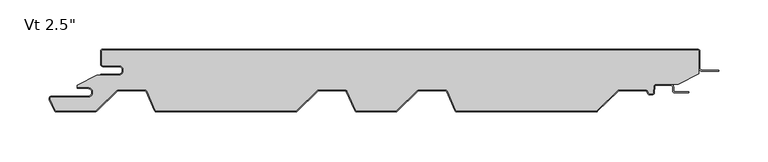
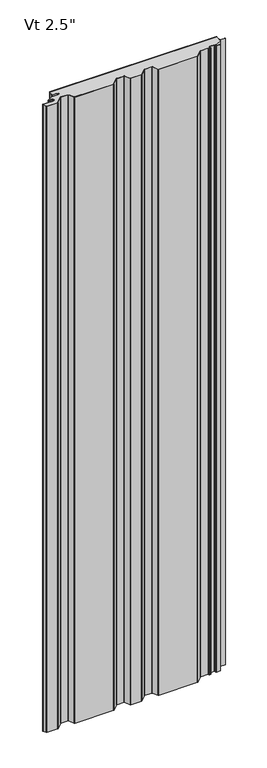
"""IFC4 building model written with IfcOpenShell, lengths in millimetres: plate geometry."""

import ifcopenshell
import ifcopenshell.guid

model = None  # the IFC model being written
_history = None  # IfcOwnerHistory: only IFC2X3 demands one
_inside = {}  # id of a spatial element -> (the spatial element, [elements in it])
_under = {}  # id of a project, library or spatial element -> (it, [spatial elements below it])
_declared = {}  # id of a project -> (the project, [libraries it declares])
_typed = {}  # id of a type object -> (the type object, [elements of that type])
_made_of = {}  # id of a material, layer set ... -> (it, [elements and type objects made of it])


def new_model(schema):
    """Start an empty IFC model of exactly this schema.

    Asked for "IFC4X3", IfcOpenShell would pick the latest addendum, in which some entities
    have other attributes; the version numbers below select the first issue.
    IFC2X3 requires an IfcOwnerHistory on every rooted entity: one is made here for all.
    """
    global model, _history
    if schema == "IFC4X3":
        model = ifcopenshell.file(schema_version=(4, 3, 0, 0))
    else:
        model = ifcopenshell.file(schema=schema)
    _inside.clear()
    _under.clear()
    _declared.clear()
    _typed.clear()
    _made_of.clear()
    _history = None
    if model.schema == "IFC2X3":
        org = make("IfcOrganization", Name="unknown")
        user = make(
            "IfcPersonAndOrganization",
            ThePerson=make("IfcPerson", FamilyName="unknown"),
            TheOrganization=org,
        )
        app = make(
            "IfcApplication",
            ApplicationDeveloper=org,
            Version="unknown",
            ApplicationFullName="unknown",
            ApplicationIdentifier="unknown",
        )
        _history = make(
            "IfcOwnerHistory",
            OwningUser=user,
            OwningApplication=app,
            ChangeAction="ADDED",
            CreationDate=0,
        )
    return model


def make(cls, **values):
    """One entity of the class cls with the attributes given. An attribute that is None is left unset."""
    return model.create_entity(
        cls, **{name: value for name, value in values.items() if value is not None}
    )


def rooted(cls, **values):
    """An entity with a GlobalId (a new one), such as an element, a storey or a relation."""
    return make(cls, GlobalId=ifcopenshell.guid.new(), OwnerHistory=_history, **values)


def si_unit(unit_type, name, prefix=None):
    """IfcSIUnit, for example si_unit("LENGTHUNIT", "METRE", prefix="MILLI")."""
    return make("IfcSIUnit", UnitType=unit_type, Prefix=prefix, Name=name)


def assignment(units):
    """IfcUnitAssignment: the units of a project."""
    return None if units is None else make("IfcUnitAssignment", Units=units)


def point(xyz):
    """IfcCartesianPoint."""
    return None if xyz is None else make("IfcCartesianPoint", Coordinates=xyz)


def direction(xyz):
    """IfcDirection."""
    return None if xyz is None else make("IfcDirection", DirectionRatios=xyz)


def frame(location, z_axis=None, x_axis=None):
    """IfcAxis2Placement3D, a coordinate frame: its origin and axes. An axis left out is left unset."""
    return make(
        "IfcAxis2Placement3D",
        Location=point(location),
        Axis=direction(z_axis),
        RefDirection=direction(x_axis),
    )


def frame_2d(location, x_axis=None):
    """IfcAxis2Placement2D, a coordinate frame in the plane: its origin and x axis."""
    return make(
        "IfcAxis2Placement2D", Location=point(location), RefDirection=direction(x_axis)
    )


def origin():
    """The frame at (0, 0, 0) with its axes left unset."""
    return frame((0.0, 0.0, 0.0))


def origin_with_axes():
    """The frame at (0, 0, 0) with the z axis (0, 0, 1) and the x axis (1, 0, 0) written out."""
    return frame((0.0, 0.0, 0.0), z_axis=(0.0, 0.0, 1.0), x_axis=(1.0, 0.0, 0.0))


def place(relative_to, where):
    """IfcLocalPlacement: puts the frame where relative to a parent placement (None: the world)."""
    return make(
        "IfcLocalPlacement", PlacementRelTo=relative_to, RelativePlacement=where
    )


def context(
    kind, dimensions, precision=None, world=None, true_north=None, identifier=None
):
    """IfcGeometricRepresentationContext, for example the 3D "Model" context."""
    return make(
        "IfcGeometricRepresentationContext",
        ContextIdentifier=identifier,
        ContextType=kind,
        CoordinateSpaceDimension=dimensions,
        Precision=precision,
        WorldCoordinateSystem=world,
        TrueNorth=true_north,
    )


def project(units=None, contexts=None):
    """IfcProject with its units and contexts."""
    return rooted(
        "IfcProject",
        Name="project",
        RepresentationContexts=contexts,
        UnitsInContext=assignment(units),
    )


def spatial(cls, under=None, at=None, **own):
    """A site, building, storey or space (cls), placed at a placement, below another one or the project."""
    s = rooted(cls, ObjectPlacement=at, **own)
    if under is not None:
        _under.setdefault(under.id(), (under, []))[1].append(s)
    return s


def polyline(points):
    """IfcPolyline through the points."""
    return make("IfcPolyline", Points=[point(p) for p in points])


def circle_curve(where, radius):
    """IfcCircle in the frame where."""
    return make("IfcCircle", Position=where, Radius=radius)


def trimmed(basis, trim1, trim2, sense, master):
    """IfcTrimmedCurve: the piece of a basis curve between two trims."""
    return make(
        "IfcTrimmedCurve",
        BasisCurve=basis,
        Trim1=trim1,
        Trim2=trim2,
        SenseAgreement=sense,
        MasterRepresentation=master,
    )


def segment(curve, same_sense, transition):
    """IfcCompositeCurveSegment."""
    return make(
        "IfcCompositeCurveSegment",
        Transition=transition,
        SameSense=same_sense,
        ParentCurve=curve,
    )


def composite_curve(segments, self_intersect=None):
    """IfcCompositeCurve: segments joined end to end."""
    return make("IfcCompositeCurve", Segments=segments, SelfIntersect=self_intersect)


def outline(outer, holes=None, kind="AREA"):
    """IfcArbitraryClosedProfileDef: a profile drawn as a closed curve; with holes, ...WithVoids."""
    if holes is None:
        return make("IfcArbitraryClosedProfileDef", ProfileType=kind, OuterCurve=outer)
    return make(
        "IfcArbitraryProfileDefWithVoids",
        ProfileType=kind,
        OuterCurve=outer,
        InnerCurves=holes,
    )


def extrude(swept, where, along, depth):
    """IfcExtrudedAreaSolid: the profile swept, set in the frame where, extruded along a direction by depth."""
    return make(
        "IfcExtrudedAreaSolid",
        SweptArea=swept,
        Position=where,
        ExtrudedDirection=direction(along),
        Depth=depth,
    )


def shape(context_of_items, identifier, shape_type, items):
    """IfcShapeRepresentation: the items that make up one representation, for example the "Body"."""
    return make(
        "IfcShapeRepresentation",
        ContextOfItems=context_of_items,
        RepresentationIdentifier=identifier,
        RepresentationType=shape_type,
        Items=items,
    )


def source(mapping_origin, context_of_items, identifier, shape_type, items):
    """IfcRepresentationMap: a shape defined once, which mapped items show again and again."""
    return make(
        "IfcRepresentationMap",
        MappingOrigin=mapping_origin,
        MappedRepresentation=shape(context_of_items, identifier, shape_type, items),
    )


def transform(
    local_origin,
    x_axis=None,
    y_axis=None,
    z_axis=None,
    scale=None,
    scale2=None,
    scale3=None,
    uniform=True,
):
    """IfcCartesianTransformationOperator3D, or its non-uniform kind. x_axis, y_axis, z_axis: its Axis1, 2, 3."""
    if uniform:
        return make(
            "IfcCartesianTransformationOperator3D",
            Axis1=direction(x_axis),
            Axis2=direction(y_axis),
            LocalOrigin=point(local_origin),
            Scale=scale,
            Axis3=direction(z_axis),
        )
    return make(
        "IfcCartesianTransformationOperator3DnonUniform",
        Axis1=direction(x_axis),
        Axis2=direction(y_axis),
        LocalOrigin=point(local_origin),
        Scale=scale,
        Axis3=direction(z_axis),
        Scale2=scale2,
        Scale3=scale3,
    )


def mapped(mapping_source, mapping_target):
    """IfcMappedItem: shows the shape of a source again, moved by a transform."""
    return make(
        "IfcMappedItem", MappingSource=mapping_source, MappingTarget=mapping_target
    )


def made_of(thing, what):
    """Note that an element or type object is made of a material, layer set ...; save() writes the relation."""
    if what is not None:
        _made_of.setdefault(what.id(), (what, []))[1].append(thing)
    return thing


def element(
    cls,
    number,
    at=None,
    inside=None,
    cuts=None,
    type_object=None,
    material=None,
    context=None,
    identifier="Body",
    shape_type=None,
    held_by="IfcProductDefinitionShape",
    body=None,
    shapes=None,
    **own,
):
    """One element of the class cls, such as IfcWall. Its Tag is "e" and its number.

    at: its placement. inside: the storey or other place that contains it. cuts: it is an
    opening in that element (IfcRelVoidsElement). A single representation is given by context,
    identifier, shape_type and body (its items); several are given by shapes. held_by: the class
    of the entity that holds the representations. save() writes the other relations.
    """
    e = rooted(cls, Tag="e%d" % number, ObjectPlacement=at, **own)
    if body is not None:
        shapes = [shape(context, identifier, shape_type, body)]
    if shapes is not None:
        e.Representation = make(held_by, Representations=shapes)
    if inside is not None:
        _inside.setdefault(inside.id(), (inside, []))[1].append(e)
    if cuts is not None:
        rooted(
            "IfcRelVoidsElement", RelatingBuildingElement=cuts, RelatedOpeningElement=e
        )
    if type_object is not None:
        _typed.setdefault(type_object.id(), (type_object, []))[1].append(e)
    return made_of(e, material)


def aggregate(whole, parts):
    """IfcRelAggregates: a whole, such as a stair, and the parts it consists of."""
    return rooted("IfcRelAggregates", RelatingObject=whole, RelatedObjects=parts)


def save(model, path):
    """Write the relations noted so far, then the file.

    IfcRelAggregates (storeys below a building ...), IfcRelContainedInSpatialStructure (elements
    in a storey), IfcRelDefinesByType, IfcRelAssociatesMaterial and IfcRelDeclares: one each for
    every whole, place, type object, material and project.
    """
    for whole, parts in _under.values():
        aggregate(whole, parts)
    for where, things in _inside.values():
        rooted(
            "IfcRelContainedInSpatialStructure",
            RelatedElements=things,
            RelatingStructure=where,
        )
    for kind, things in _typed.values():
        rooted("IfcRelDefinesByType", RelatedObjects=things, RelatingType=kind)
    for what, things in _made_of.values():
        rooted("IfcRelAssociatesMaterial", RelatedObjects=things, RelatingMaterial=what)
    for by, libraries in _declared.values():
        rooted("IfcRelDeclares", RelatingContext=by, RelatedDefinitions=libraries)
    model.write(path)


def plate_872a44c1(model_context):
    return source(origin(), model_context, "Body", "SweptSolid", [
        extrude(outline(composite_curve([segment(trimmed(circle_curve(frame_2d((-285.74375, -21.4324412)), 4.96875), [point((-285.74375, -26.4011912))], [point((-285.74375, -16.4636912))], True, "CARTESIAN"), True, "CONTINUOUS"), segment(polyline([(-285.74375, -16.4636912), (-301.61875, -16.4636912)]), True, "CONTINUOUS"), segment(trimmed(circle_curve(frame_2d((-301.61875, -15.0824412)), 1.38125), [point((-301.61875, -16.4636912))], [point((-303.0, -15.0824412))], False, "CARTESIAN"), True, "CONTINUOUS"), segment(polyline([(-303.0, -15.0824412), (-303.0, -2.3824412)]), True, "CONTINUOUS"), segment(trimmed(circle_curve(frame_2d((-301.61875, -2.3824412)), 1.38125), [point((-303.0, -2.3824412))], [point((-301.61875, -1.0011912))], False, "CARTESIAN"), True, "CONTINUOUS"), segment(polyline([(-301.61875, -1.0011912), (301.63125, -1.0011912)]), True, "CONTINUOUS"), segment(trimmed(circle_curve(frame_2d((301.63125, -2.3824412)), 1.38125), [point((301.63125, -1.0011912))], [point((303.0125, -2.3824412))], False, "CARTESIAN"), True, "CONTINUOUS"), segment(polyline([(303.0125, -2.3824412), (303.0125, -24.8719682), (282.1955434, -35.5136912), (259.7683457, -35.5136912)]), True, "CONTINUOUS"), segment(trimmed(circle_curve(frame_2d((259.7683457, -38.1011912)), 2.5875), [point((259.7683457, -35.5136912))], [point((257.1843918, -37.9657719))], True, "CARTESIAN"), True, "CONTINUOUS"), segment(polyline([(257.1843918, -37.9657719), (256.8823155, -43.7297302)]), True, "CONTINUOUS"), segment(trimmed(circle_curve(frame_2d((255.5029585, -43.6574412)), 1.38125), [point((256.8823155, -43.7297302))], [point((255.5029585, -45.0386912))], False, "CARTESIAN"), True, "CONTINUOUS"), segment(polyline([(255.5029585, -45.0386912), (253.1754519, -45.0386912)]), True, "CONTINUOUS"), segment(trimmed(circle_curve(frame_2d((253.1754519, -43.6574412)), 1.38125), [point((253.1754519, -45.0386912))], [point((251.9124516, -44.2166208))], False, "CARTESIAN"), True, "CONTINUOUS"), segment(polyline([(251.9124516, -44.2166208), (251.1640306, -42.5261871)]), True, "CONTINUOUS"), segment(trimmed(circle_curve(frame_2d((248.7980481, -43.5737)), 2.5875), [point((251.1640306, -42.5261871))], [point((248.7980481, -40.9862))], True, "CARTESIAN"), True, "CONTINUOUS"), segment(polyline([(248.7980481, -40.9862), (222.2742003, -40.9862)]), True, "CONTINUOUS"), segment(trimmed(circle_curve(frame_2d((222.2742003, -43.5737)), 2.5875), [point((222.2742003, -40.9862))], [point((220.4745496, -41.7145567))], True, "CARTESIAN"), True, "CONTINUOUS"), segment(polyline([(220.4745496, -41.7145567), (199.4036462, -62.1111912)]), True, "CONTINUOUS"), segment(trimmed(circle_curve(frame_2d((198.4429631, -61.11875)), 1.38125), [point((199.4036462, -62.1111912))], [point((198.4429631, -62.5))], False, "CARTESIAN"), True, "CONTINUOUS"), segment(polyline([(198.4429631, -62.5), (57.7062557, -62.5)]), True, "CONTINUOUS"), segment(trimmed(circle_curve(frame_2d((57.7062557, -61.11875)), 1.38125), [point((57.7062557, -62.5))], [point((56.4432554, -61.6779296))], False, "CARTESIAN"), True, "CONTINUOUS"), segment(polyline([(56.4432554, -61.6779296), (47.9640306, -42.5261871)]), True, "CONTINUOUS"), segment(trimmed(circle_curve(frame_2d((45.5980481, -43.5737)), 2.5875), [point((47.9640306, -42.5261871))], [point((45.5980481, -40.9862))], True, "CARTESIAN"), True, "CONTINUOUS"), segment(polyline([(45.5980481, -40.9862), (19.0742003, -40.9862)]), True, "CONTINUOUS"), segment(trimmed(circle_curve(frame_2d((19.0742003, -43.5737)), 2.5875), [point((19.0742003, -40.9862))], [point((17.2745496, -41.7145567))], True, "CARTESIAN"), True, "CONTINUOUS"), segment(polyline([(17.2745496, -41.7145567), (-3.7963538, -62.1111912)]), True, "CONTINUOUS"), segment(trimmed(circle_curve(frame_2d((-4.7570369, -61.11875)), 1.38125), [point((-3.7963538, -62.1111912))], [point((-4.7570369, -62.5))], False, "CARTESIAN"), True, "CONTINUOUS"), segment(polyline([(-4.7570369, -62.5), (-43.8937443, -62.5)]), True, "CONTINUOUS"), segment(trimmed(circle_curve(frame_2d((-43.8937443, -61.11875)), 1.38125), [point((-43.8937443, -62.5))], [point((-45.1567446, -61.6779296))], False, "CARTESIAN"), True, "CONTINUOUS"), segment(polyline([(-45.1567446, -61.6779296), (-53.6359694, -42.5261871)]), True, "CONTINUOUS"), segment(trimmed(circle_curve(frame_2d((-56.0019519, -43.5737)), 2.5875), [point((-53.6359694, -42.5261871))], [point((-56.0019519, -40.9862))], True, "CARTESIAN"), True, "CONTINUOUS"), segment(polyline([(-56.0019519, -40.9862), (-82.5257997, -40.9862)]), True, "CONTINUOUS"), segment(trimmed(circle_curve(frame_2d((-82.5257997, -43.5737)), 2.5875), [point((-82.5257997, -40.9862))], [point((-84.3254504, -41.7145567))], True, "CARTESIAN"), True, "CONTINUOUS"), segment(polyline([(-84.3254504, -41.7145567), (-105.3963538, -62.1111912)]), True, "CONTINUOUS"), segment(trimmed(circle_curve(frame_2d((-106.3570369, -61.11875)), 1.38125), [point((-105.3963538, -62.1111912))], [point((-106.3570369, -62.5))], False, "CARTESIAN"), True, "CONTINUOUS"), segment(polyline([(-106.3570369, -62.5), (-247.0937443, -62.5)]), True, "CONTINUOUS"), segment(trimmed(circle_curve(frame_2d((-247.0937443, -61.11875)), 1.38125), [point((-247.0937443, -62.5))], [point((-248.3567446, -61.6779296))], False, "CARTESIAN"), True, "CONTINUOUS"), segment(polyline([(-248.3567446, -61.6779296), (-256.8359694, -42.5261871)]), True, "CONTINUOUS"), segment(trimmed(circle_curve(frame_2d((-259.2019519, -43.5737)), 2.5875), [point((-256.8359694, -42.5261871))], [point((-259.2019519, -40.9862))], True, "CARTESIAN"), True, "CONTINUOUS"), segment(polyline([(-259.2019519, -40.9862), (-285.7257997, -40.9862)]), True, "CONTINUOUS"), segment(trimmed(circle_curve(frame_2d((-285.7257997, -43.5737)), 2.5875), [point((-285.7257997, -40.9862))], [point((-287.5254504, -41.7145567))], True, "CARTESIAN"), True, "CONTINUOUS"), segment(polyline([(-287.5254504, -41.7145567), (-308.3876931, -61.9092077)]), True, "CONTINUOUS"), segment(trimmed(circle_curve(frame_2d((-309.8474446, -60.4012)), 2.0988), [point((-308.3876931, -61.9092077))], [point((-309.8474446, -62.5))], False, "CARTESIAN"), True, "CONTINUOUS"), segment(polyline([(-309.8474446, -62.5), (-348.6937443, -62.5)]), True, "CONTINUOUS"), segment(trimmed(circle_curve(frame_2d((-348.6937443, -61.11875)), 1.38125), [point((-348.6937443, -62.5))], [point((-349.9567446, -61.6779296))], False, "CARTESIAN"), True, "CONTINUOUS"), segment(polyline([(-349.9567446, -61.6779296), (-354.8761552, -50.5666208)]), True, "CONTINUOUS"), segment(trimmed(circle_curve(frame_2d((-353.6131549, -50.0074412)), 1.38125), [point((-354.8761552, -50.5666208))], [point((-353.6131549, -48.6261912))], False, "CARTESIAN"), True, "CONTINUOUS"), segment(polyline([(-353.6131549, -48.6261912), (-316.7, -48.6261912)]), True, "CONTINUOUS"), segment(trimmed(circle_curve(frame_2d((-316.7, -43.6574412)), 4.96875), [point((-316.7, -48.6261912))], [point((-316.7, -38.6886912))], True, "CARTESIAN"), True, "CONTINUOUS"), segment(polyline([(-316.7, -38.6886912), (-327.8125, -38.6886912), (-327.8125, -36.533822), (-307.9914112, -26.4011912), (-285.74375, -26.4011912)]), True, "CONTINUOUS")], self_intersect=False)), origin_with_axes(), (0.0, 0.0, 1.0), 2400.0),
        extrude(outline(composite_curve([segment(polyline([(-304.0, -25.4), (-285.74375, -25.4)]), True, "CONTINUOUS"), segment(trimmed(circle_curve(frame_2d((-285.74375, -21.43125)), 3.96875), [point((-285.74375, -25.4))], [point((-285.74375, -17.4625))], True, "CARTESIAN"), True, "CONTINUOUS"), segment(polyline([(-285.74375, -17.4625), (-301.61875, -17.4625)]), True, "CONTINUOUS"), segment(trimmed(circle_curve(frame_2d((-301.61875, -15.08125)), 2.38125), [point((-301.61875, -17.4625))], [point((-304.0, -15.08125))], False, "CARTESIAN"), True, "CONTINUOUS"), segment(polyline([(-304.0, -15.08125), (-304.0, -2.38125)]), True, "CONTINUOUS"), segment(trimmed(circle_curve(frame_2d((-301.61875, -2.38125)), 2.38125), [point((-304.0, -2.38125))], [point((-301.61875, 0.0))], False, "CARTESIAN"), True, "CONTINUOUS"), segment(polyline([(-301.61875, 0.0), (301.63125, 0.0)]), True, "CONTINUOUS"), segment(trimmed(circle_curve(frame_2d((301.63125, -2.38125)), 2.38125), [point((301.63125, 0.0))], [point((304.0125, -2.38125))], False, "CARTESIAN"), True, "CONTINUOUS"), segment(polyline([(304.0125, -2.38125), (304.0125, -19.446875)]), True, "CONTINUOUS"), segment(trimmed(circle_curve(frame_2d((305.6, -19.446875)), 1.5875), [point((304.0125, -19.446875))], [point((305.6, -21.034375))], True, "CARTESIAN"), True, "CONTINUOUS"), segment(polyline([(305.6, -21.034375), (323.0625, -21.034375), (323.0625, -22.034375), (305.6, -22.034375)]), True, "CONTINUOUS"), segment(trimmed(circle_curve(frame_2d((305.6, -19.446875)), 2.5875), [point((305.6, -22.034375))], [point((303.0125, -19.446875))], False, "CARTESIAN"), True, "CONTINUOUS"), segment(polyline([(303.0125, -19.446875), (303.0125, -2.38125)]), True, "CONTINUOUS"), segment(trimmed(circle_curve(frame_2d((301.63125, -2.38125)), 1.38125), [point((303.0125, -2.38125))], [point((301.63125, -1.0))], True, "CARTESIAN"), True, "CONTINUOUS"), segment(polyline([(301.63125, -1.0), (-301.61875, -1.0)]), True, "CONTINUOUS"), segment(trimmed(circle_curve(frame_2d((-301.61875, -2.38125)), 1.38125), [point((-301.61875, -1.0))], [point((-303.0, -2.38125))], True, "CARTESIAN"), True, "CONTINUOUS"), segment(polyline([(-303.0, -2.38125), (-303.0, -15.08125)]), True, "CONTINUOUS"), segment(trimmed(circle_curve(frame_2d((-301.61875, -15.08125)), 1.38125), [point((-303.0, -15.08125))], [point((-301.61875, -16.4625))], True, "CARTESIAN"), True, "CONTINUOUS"), segment(polyline([(-301.61875, -16.4625), (-285.74375, -16.4625)]), True, "CONTINUOUS"), segment(trimmed(circle_curve(frame_2d((-285.74375, -21.43125)), 4.96875), [point((-285.74375, -16.4625))], [point((-285.74375, -26.4))], False, "CARTESIAN"), True, "CONTINUOUS"), segment(polyline([(-285.74375, -26.4), (-304.0, -26.4), (-304.0, -25.4)]), True, "CONTINUOUS")], self_intersect=False)), origin_with_axes(), (0.0, 0.0, 1.0), 2400.0),
        extrude(outline(composite_curve([segment(trimmed(circle_curve(frame_2d((-316.7, -43.6574412)), 3.96875), [point((-316.7, -47.6261912))], [point((-316.7, -39.6886912))], True, "CARTESIAN"), True, "CONTINUOUS"), segment(polyline([(-316.7, -39.6886912), (-327.8125, -39.6886912), (-327.8125, -38.6886912), (-316.7, -38.6886912)]), True, "CONTINUOUS"), segment(trimmed(circle_curve(frame_2d((-316.7, -43.6574412)), 4.96875), [point((-316.7, -38.6886912))], [point((-316.7, -48.6261912))], False, "CARTESIAN"), True, "CONTINUOUS"), segment(polyline([(-316.7, -48.6261912), (-353.6131549, -48.6261912)]), True, "CONTINUOUS"), segment(trimmed(circle_curve(frame_2d((-353.6131549, -50.0074412)), 1.38125), [point((-353.6131549, -48.6261912))], [point((-354.8761552, -50.5666208))], True, "CARTESIAN"), True, "CONTINUOUS"), segment(polyline([(-354.8761552, -50.5666208), (-349.9567446, -61.6779296)]), True, "CONTINUOUS"), segment(trimmed(circle_curve(frame_2d((-348.6937443, -61.11875)), 1.38125), [point((-349.9567446, -61.6779296))], [point((-348.6937443, -62.5))], True, "CARTESIAN"), True, "CONTINUOUS"), segment(polyline([(-348.6937443, -62.5), (-309.8474446, -62.5)]), True, "CONTINUOUS"), segment(trimmed(circle_curve(frame_2d((-309.8474446, -60.4012)), 2.0988), [point((-309.8474446, -62.5))], [point((-308.3876931, -61.9092077))], True, "CARTESIAN"), True, "CONTINUOUS"), segment(polyline([(-308.3876931, -61.9092077), (-287.5254504, -41.7145567)]), True, "CONTINUOUS"), segment(trimmed(circle_curve(frame_2d((-285.7257997, -43.5737)), 2.5875), [point((-287.5254504, -41.7145567))], [point((-285.7257997, -40.9862))], False, "CARTESIAN"), True, "CONTINUOUS"), segment(polyline([(-285.7257997, -40.9862), (-259.2019519, -40.9862)]), True, "CONTINUOUS"), segment(trimmed(circle_curve(frame_2d((-259.2019519, -43.5737)), 2.5875), [point((-259.2019519, -40.9862))], [point((-256.8359694, -42.5261871))], False, "CARTESIAN"), True, "CONTINUOUS"), segment(polyline([(-256.8359694, -42.5261871), (-248.3567446, -61.6779296)]), True, "CONTINUOUS"), segment(trimmed(circle_curve(frame_2d((-247.0937443, -61.11875)), 1.38125), [point((-248.3567446, -61.6779296))], [point((-247.0937443, -62.5))], True, "CARTESIAN"), True, "CONTINUOUS"), segment(polyline([(-247.0937443, -62.5), (-106.3570369, -62.5)]), True, "CONTINUOUS"), segment(trimmed(circle_curve(frame_2d((-106.3570369, -61.11875)), 1.38125), [point((-106.3570369, -62.5))], [point((-105.3963538, -62.1111912))], True, "CARTESIAN"), True, "CONTINUOUS"), segment(polyline([(-105.3963538, -62.1111912), (-84.3254504, -41.7145567)]), True, "CONTINUOUS"), segment(trimmed(circle_curve(frame_2d((-82.5257997, -43.5737)), 2.5875), [point((-84.3254504, -41.7145567))], [point((-82.5257997, -40.9862))], False, "CARTESIAN"), True, "CONTINUOUS"), segment(polyline([(-82.5257997, -40.9862), (-56.0019519, -40.9862)]), True, "CONTINUOUS"), segment(trimmed(circle_curve(frame_2d((-56.0019519, -43.5737)), 2.5875), [point((-56.0019519, -40.9862))], [point((-53.6359694, -42.5261871))], False, "CARTESIAN"), True, "CONTINUOUS"), segment(polyline([(-53.6359694, -42.5261871), (-45.1567446, -61.6779296)]), True, "CONTINUOUS"), segment(trimmed(circle_curve(frame_2d((-43.8937443, -61.11875)), 1.38125), [point((-45.1567446, -61.6779296))], [point((-43.8937443, -62.5))], True, "CARTESIAN"), True, "CONTINUOUS"), segment(polyline([(-43.8937443, -62.5), (-4.7570369, -62.5)]), True, "CONTINUOUS"), segment(trimmed(circle_curve(frame_2d((-4.7570369, -61.11875)), 1.38125), [point((-4.7570369, -62.5))], [point((-3.7963538, -62.1111912))], True, "CARTESIAN"), True, "CONTINUOUS"), segment(polyline([(-3.7963538, -62.1111912), (17.2745496, -41.7145567)]), True, "CONTINUOUS"), segment(trimmed(circle_curve(frame_2d((19.0742003, -43.5737)), 2.5875), [point((17.2745496, -41.7145567))], [point((19.0742003, -40.9862))], False, "CARTESIAN"), True, "CONTINUOUS"), segment(polyline([(19.0742003, -40.9862), (45.5980481, -40.9862)]), True, "CONTINUOUS"), segment(trimmed(circle_curve(frame_2d((45.5980481, -43.5737)), 2.5875), [point((45.5980481, -40.9862))], [point((47.9640306, -42.5261871))], False, "CARTESIAN"), True, "CONTINUOUS"), segment(polyline([(47.9640306, -42.5261871), (56.4432554, -61.6779296)]), True, "CONTINUOUS"), segment(trimmed(circle_curve(frame_2d((57.7062557, -61.11875)), 1.38125), [point((56.4432554, -61.6779296))], [point((57.7062557, -62.5))], True, "CARTESIAN"), True, "CONTINUOUS"), segment(polyline([(57.7062557, -62.5), (198.4429631, -62.5)]), True, "CONTINUOUS"), segment(trimmed(circle_curve(frame_2d((198.4429631, -61.11875)), 1.38125), [point((198.4429631, -62.5))], [point((199.4036462, -62.1111912))], True, "CARTESIAN"), True, "CONTINUOUS"), segment(polyline([(199.4036462, -62.1111912), (220.4745496, -41.7145567)]), True, "CONTINUOUS"), segment(trimmed(circle_curve(frame_2d((222.2742003, -43.5737)), 2.5875), [point((220.4745496, -41.7145567))], [point((222.2742003, -40.9862))], False, "CARTESIAN"), True, "CONTINUOUS"), segment(polyline([(222.2742003, -40.9862), (248.7980481, -40.9862)]), True, "CONTINUOUS"), segment(trimmed(circle_curve(frame_2d((248.7980481, -43.5737)), 2.5875), [point((248.7980481, -40.9862))], [point((251.1640306, -42.5261871))], False, "CARTESIAN"), True, "CONTINUOUS"), segment(polyline([(251.1640306, -42.5261871), (251.9124516, -44.2166208)]), True, "CONTINUOUS"), segment(trimmed(circle_curve(frame_2d((253.1754519, -43.6574412)), 1.38125), [point((251.9124516, -44.2166208))], [point((253.1754519, -45.0386912))], True, "CARTESIAN"), True, "CONTINUOUS"), segment(polyline([(253.1754519, -45.0386912), (255.5029585, -45.0386912)]), True, "CONTINUOUS"), segment(trimmed(circle_curve(frame_2d((255.5029585, -43.6574412)), 1.38125), [point((255.5029585, -45.0386912))], [point((256.8823155, -43.7297302))], True, "CARTESIAN"), True, "CONTINUOUS"), segment(polyline([(256.8823155, -43.7297302), (257.1843918, -37.9657719)]), True, "CONTINUOUS"), segment(trimmed(circle_curve(frame_2d((259.7683457, -38.1011912)), 2.5875), [point((257.1843918, -37.9657719))], [point((259.7683457, -35.5136912))], False, "CARTESIAN"), True, "CONTINUOUS"), segment(polyline([(259.7683457, -35.5136912), (274.64375, -35.5136912)]), True, "CONTINUOUS"), segment(trimmed(circle_curve(frame_2d((274.64375, -38.1011912)), 2.5875), [point((274.64375, -35.5136912))], [point((277.23125, -38.1011912))], False, "CARTESIAN"), True, "CONTINUOUS"), segment(polyline([(277.23125, -38.1011912), (277.23125, -41.6730662)]), True, "CONTINUOUS"), segment(trimmed(circle_curve(frame_2d((278.6125, -41.6730662)), 1.38125), [point((277.23125, -41.6730662))], [point((278.6125, -43.0543162))], True, "CARTESIAN"), True, "CONTINUOUS"), segment(polyline([(278.6125, -43.0543162), (292.9, -43.0543162), (292.9, -44.0543162), (278.6125, -44.0543162)]), True, "CONTINUOUS"), segment(trimmed(circle_curve(frame_2d((278.6125, -41.6730662)), 2.38125), [point((278.6125, -44.0543162))], [point((276.23125, -41.6730662))], False, "CARTESIAN"), True, "CONTINUOUS"), segment(polyline([(276.23125, -41.6730662), (276.23125, -38.1011912)]), True, "CONTINUOUS"), segment(trimmed(circle_curve(frame_2d((274.64375, -38.1011912)), 1.5875), [point((276.23125, -38.1011912))], [point((274.64375, -36.5136912))], True, "CARTESIAN"), True, "CONTINUOUS"), segment(polyline([(274.64375, -36.5136912), (259.7683457, -36.5136912)]), True, "CONTINUOUS"), segment(trimmed(circle_curve(frame_2d((259.7683457, -38.1011912)), 1.5875), [point((259.7683457, -36.5136912))], [point((258.1830213, -38.0181078))], True, "CARTESIAN"), True, "CONTINUOUS"), segment(polyline([(258.1830213, -38.0181078), (257.8809451, -43.7820662)]), True, "CONTINUOUS"), segment(trimmed(circle_curve(frame_2d((255.5029585, -43.6574412)), 2.38125), [point((257.8809451, -43.7820662))], [point((255.5029585, -46.0386912))], False, "CARTESIAN"), True, "CONTINUOUS"), segment(polyline([(255.5029585, -46.0386912), (253.1754519, -46.0386912)]), True, "CONTINUOUS"), segment(trimmed(circle_curve(frame_2d((253.1754519, -43.6574412)), 2.38125), [point((253.1754519, -46.0386912))], [point((250.9980623, -44.6214567))], False, "CARTESIAN"), True, "CONTINUOUS"), segment(polyline([(250.9980623, -44.6214567), (250.2496412, -42.931023)]), True, "CONTINUOUS"), segment(trimmed(circle_curve(frame_2d((248.7980481, -43.5737)), 1.5875), [point((250.2496412, -42.931023))], [point((248.7980481, -41.9862))], True, "CARTESIAN"), True, "CONTINUOUS"), segment(polyline([(248.7980481, -41.9862), (222.2742003, -41.9862)]), True, "CONTINUOUS"), segment(trimmed(circle_curve(frame_2d((222.2742003, -43.5737)), 1.5875), [point((222.2742003, -41.9862))], [point((221.1700668, -42.4330662))], True, "CARTESIAN"), True, "CONTINUOUS"), segment(polyline([(221.1700668, -42.4330662), (200.0991634, -62.8297007)]), True, "CONTINUOUS"), segment(trimmed(circle_curve(frame_2d((198.4429631, -61.11875)), 2.38125), [point((200.0991634, -62.8297007))], [point((198.4429631, -63.5))], False, "CARTESIAN"), True, "CONTINUOUS"), segment(polyline([(198.4429631, -63.5), (57.7062557, -63.5)]), True, "CONTINUOUS"), segment(trimmed(circle_curve(frame_2d((57.7062557, -61.11875)), 2.38125), [point((57.7062557, -63.5))], [point((55.5288661, -62.0827655))], False, "CARTESIAN"), True, "CONTINUOUS"), segment(polyline([(55.5288661, -62.0827655), (47.0496412, -42.931023)]), True, "CONTINUOUS"), segment(trimmed(circle_curve(frame_2d((45.5980481, -43.5737)), 1.5875), [point((47.0496412, -42.931023))], [point((45.5980481, -41.9862))], True, "CARTESIAN"), True, "CONTINUOUS"), segment(polyline([(45.5980481, -41.9862), (19.0742003, -41.9862)]), True, "CONTINUOUS"), segment(trimmed(circle_curve(frame_2d((19.0742003, -43.5737)), 1.5875), [point((19.0742003, -41.9862))], [point((17.9700668, -42.4330662))], True, "CARTESIAN"), True, "CONTINUOUS"), segment(polyline([(17.9700668, -42.4330662), (-3.1008366, -62.8297007)]), True, "CONTINUOUS"), segment(trimmed(circle_curve(frame_2d((-4.7570369, -61.11875)), 2.38125), [point((-3.1008366, -62.8297007))], [point((-4.7570369, -63.5))], False, "CARTESIAN"), True, "CONTINUOUS"), segment(polyline([(-4.7570369, -63.5), (-43.8937443, -63.5)]), True, "CONTINUOUS"), segment(trimmed(circle_curve(frame_2d((-43.8937443, -61.11875)), 2.38125), [point((-43.8937443, -63.5))], [point((-46.0711339, -62.0827655))], False, "CARTESIAN"), True, "CONTINUOUS"), segment(polyline([(-46.0711339, -62.0827655), (-54.5503588, -42.931023)]), True, "CONTINUOUS"), segment(trimmed(circle_curve(frame_2d((-56.0019519, -43.5737)), 1.5875), [point((-54.5503588, -42.931023))], [point((-56.0019519, -41.9862))], True, "CARTESIAN"), True, "CONTINUOUS"), segment(polyline([(-56.0019519, -41.9862), (-82.5257997, -41.9862)]), True, "CONTINUOUS"), segment(trimmed(circle_curve(frame_2d((-82.5257997, -43.5737)), 1.5875), [point((-82.5257997, -41.9862))], [point((-83.6299332, -42.4330662))], True, "CARTESIAN"), True, "CONTINUOUS"), segment(polyline([(-83.6299332, -42.4330662), (-104.7008366, -62.8297007)]), True, "CONTINUOUS"), segment(trimmed(circle_curve(frame_2d((-106.3570369, -61.11875)), 2.38125), [point((-104.7008366, -62.8297007))], [point((-106.3570369, -63.5))], False, "CARTESIAN"), True, "CONTINUOUS"), segment(polyline([(-106.3570369, -63.5), (-247.0937443, -63.5)]), True, "CONTINUOUS"), segment(trimmed(circle_curve(frame_2d((-247.0937443, -61.11875)), 2.38125), [point((-247.0937443, -63.5))], [point((-249.2711339, -62.0827655))], False, "CARTESIAN"), True, "CONTINUOUS"), segment(polyline([(-249.2711339, -62.0827655), (-257.7503588, -42.931023)]), True, "CONTINUOUS"), segment(trimmed(circle_curve(frame_2d((-259.2019519, -43.5737)), 1.5875), [point((-257.7503588, -42.931023))], [point((-259.2019519, -41.9862))], True, "CARTESIAN"), True, "CONTINUOUS"), segment(polyline([(-259.2019519, -41.9862), (-285.7257997, -41.9862)]), True, "CONTINUOUS"), segment(trimmed(circle_curve(frame_2d((-285.7257997, -43.5737)), 1.5875), [point((-285.7257997, -41.9862))], [point((-286.8299332, -42.4330662))], True, "CARTESIAN"), True, "CONTINUOUS"), segment(polyline([(-286.8299332, -42.4330662), (-307.6921759, -62.6277172)]), True, "CONTINUOUS"), segment(trimmed(circle_curve(frame_2d((-309.8474446, -60.4012)), 3.0988), [point((-307.6921759, -62.6277172))], [point((-309.8474446, -63.5))], False, "CARTESIAN"), True, "CONTINUOUS"), segment(polyline([(-309.8474446, -63.5), (-348.6937443, -63.5)]), True, "CONTINUOUS"), segment(trimmed(circle_curve(frame_2d((-348.6937443, -61.11875)), 2.38125), [point((-348.6937443, -63.5))], [point((-350.8711339, -62.0827655))], False, "CARTESIAN"), True, "CONTINUOUS"), segment(polyline([(-350.8711339, -62.0827655), (-355.7905446, -50.9714567)]), True, "CONTINUOUS"), segment(trimmed(circle_curve(frame_2d((-353.6131549, -50.0074412)), 2.38125), [point((-355.7905446, -50.9714567))], [point((-353.6131549, -47.6261912))], False, "CARTESIAN"), True, "CONTINUOUS"), segment(polyline([(-353.6131549, -47.6261912), (-316.7, -47.6261912)]), True, "CONTINUOUS")], self_intersect=False)), origin_with_axes(), (0.0, 0.0, 1.0), 2400.0),
    ])


if __name__ == "__main__":
    model = new_model("IFC4")
    model_context = context("Model", 3, world=origin())
    ifc_project = project(units=[si_unit("LENGTHUNIT", "METRE", prefix="MILLI")], contexts=[model_context])
    site = spatial("IfcSite", under=ifc_project)
    building = spatial("IfcBuilding", under=site)
    placement = place(None, origin())
    plate_shape = plate_872a44c1(model_context)
    element("IfcPlate", 1, ObjectType="KIP-24-DWR-R19-CP-Vt-A : Vt 2.5\"", at=placement, inside=building, context=model_context, shape_type="MappedRepresentation", body=[
        mapped(plate_shape, transform((0.0, 0.0, 0.0), x_axis=(1.0, 0.0, 0.0), y_axis=(0.0, 1.0, 0.0), z_axis=(0.0, 0.0, 1.0))),
    ])
    save(model, "model.ifc")
